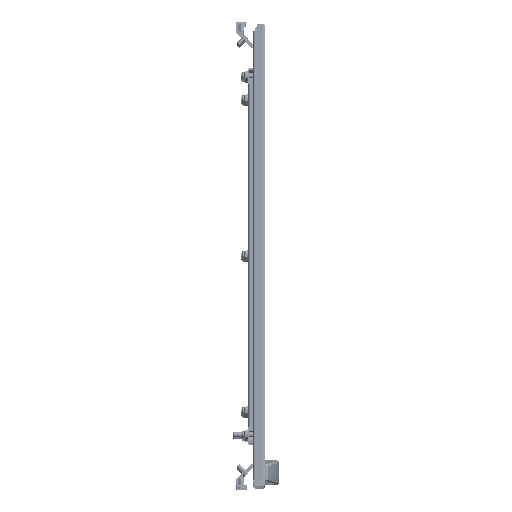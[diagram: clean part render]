
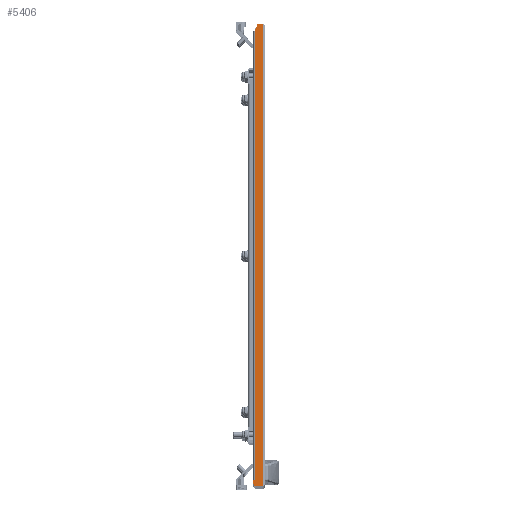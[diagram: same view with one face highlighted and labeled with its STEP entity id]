
A CAD part, top view. The second image highlights one B-rep face of the part: STEP entity #5406.
In plain terms, the highlighted planar face has unit normal (0, 0, 1).
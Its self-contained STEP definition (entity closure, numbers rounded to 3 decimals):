
#5406=ADVANCED_FACE('',(#15489),#15491,.T.);
#15489=FACE_BOUND('',#15490,.T.);
#15490=EDGE_LOOP('',(#36261,#36262,#36263,#36264,#36265,#36266,#36267,#36268,#36269));
#15491=PLANE('',#15492);
#15492=AXIS2_PLACEMENT_3D('',#15493,#15494,#15495);
#15493=CARTESIAN_POINT('',(-13.5,-293.2,985.5));
#15494=DIRECTION('',(0.,0.,1.));
#15495=DIRECTION('',(1.,0.,0.));
#36261=ORIENTED_EDGE('',*,*,#43778,.T.);
#36262=ORIENTED_EDGE('',*,*,#43779,.F.);
#36263=ORIENTED_EDGE('',*,*,#43780,.T.);
#36264=ORIENTED_EDGE('',*,*,#43771,.T.);
#36265=ORIENTED_EDGE('',*,*,#43731,.T.);
#36266=ORIENTED_EDGE('',*,*,#43777,.F.);
#36267=ORIENTED_EDGE('',*,*,#43753,.T.);
#36268=ORIENTED_EDGE('',*,*,#43768,.T.);
#36269=ORIENTED_EDGE('',*,*,#43781,.T.);
#43731=EDGE_CURVE('',#49114,#49121,#49124,.T.);
#43753=EDGE_CURVE('',#49155,#49153,#49156,.F.);
#43768=EDGE_CURVE('',#49153,#49177,#49179,.F.);
#43771=EDGE_CURVE('',#49180,#49114,#49184,.T.);
#43777=EDGE_CURVE('',#49155,#49121,#49193,.T.);
#43778=EDGE_CURVE('',#49194,#49195,#49196,.T.);
#43779=EDGE_CURVE('',#49197,#49195,#49198,.T.);
#43780=EDGE_CURVE('',#49197,#49180,#49199,.F.);
#43781=EDGE_CURVE('',#49177,#49194,#49200,.T.);
#49114=VERTEX_POINT('',#59819);
#49121=VERTEX_POINT('',#59839);
#49124=LINE('',#59847,#59848);
#49153=VERTEX_POINT('',#59924);
#49155=VERTEX_POINT('',#59928);
#49156=CIRCLE('',#59929,1.55);
#49177=VERTEX_POINT('',#59986);
#49179=LINE('',#59990,#59991);
#49180=VERTEX_POINT('',#59993);
#49184=LINE('',#60001,#60002);
#49193=LINE('',#60023,#60024);
#49194=VERTEX_POINT('',#60026);
#49195=VERTEX_POINT('',#60027);
#49196=LINE('',#60028,#60029);
#49197=VERTEX_POINT('',#60031);
#49198=LINE('',#60032,#60033);
#49199=CIRCLE('',#60035,2.8);
#49200=LINE('',#60039,#60040);
#59819=CARTESIAN_POINT('',(-1.3,-296.,985.5));
#59839=CARTESIAN_POINT('',(-1.3,296.,985.5));
#59847=CARTESIAN_POINT('',(-1.3,-296.,985.5));
#59848=VECTOR('',#59849,1.);
#59849=DIRECTION('',(0.,1.,0.));
#59924=CARTESIAN_POINT('',(-9.226,293.57,985.5));
#59928=CARTESIAN_POINT('',(-7.95,296.,985.5));
#59929=AXIS2_PLACEMENT_3D('',#59930,#59931,#59932);
#59930=CARTESIAN_POINT('',(-7.95,294.45,985.5));
#59931=DIRECTION('',(0.,0.,-1.));
#59932=DIRECTION('',(-0.823,-0.568,0.));
#59986=CARTESIAN_POINT('',(-11.95,287.859,985.5));
#59990=CARTESIAN_POINT('',(-11.95,287.859,985.5));
#59991=VECTOR('',#59992,1.);
#59992=DIRECTION('',(0.431,0.903,0.));
#59993=CARTESIAN_POINT('',(-10.7,-296.,985.5));
#60001=CARTESIAN_POINT('',(-10.7,-296.,985.5));
#60002=VECTOR('',#60003,1.);
#60003=DIRECTION('',(1.,0.,0.));
#60023=CARTESIAN_POINT('',(-7.95,296.,985.5));
#60024=VECTOR('',#60025,1.);
#60025=DIRECTION('',(1.,0.,0.));
#60026=CARTESIAN_POINT('',(-11.95,-288.,985.5));
#60027=CARTESIAN_POINT('',(-13.5,-288.,985.5));
#60028=CARTESIAN_POINT('',(-11.95,-288.,985.5));
#60029=VECTOR('',#60030,1.);
#60030=DIRECTION('',(-1.,0.,0.));
#60031=CARTESIAN_POINT('',(-13.5,-293.2,985.5));
#60032=CARTESIAN_POINT('',(-13.5,-293.2,985.5));
#60033=VECTOR('',#60034,1.);
#60034=DIRECTION('',(0.,1.,0.));
#60035=AXIS2_PLACEMENT_3D('',#60036,#60037,#60038);
#60036=CARTESIAN_POINT('',(-10.7,-293.2,985.5));
#60037=DIRECTION('',(0.,0.,-1.));
#60038=DIRECTION('',(0.,-1.,0.));
#60039=CARTESIAN_POINT('',(-11.95,287.859,985.5));
#60040=VECTOR('',#60041,1.);
#60041=DIRECTION('',(0.,-1.,0.));
